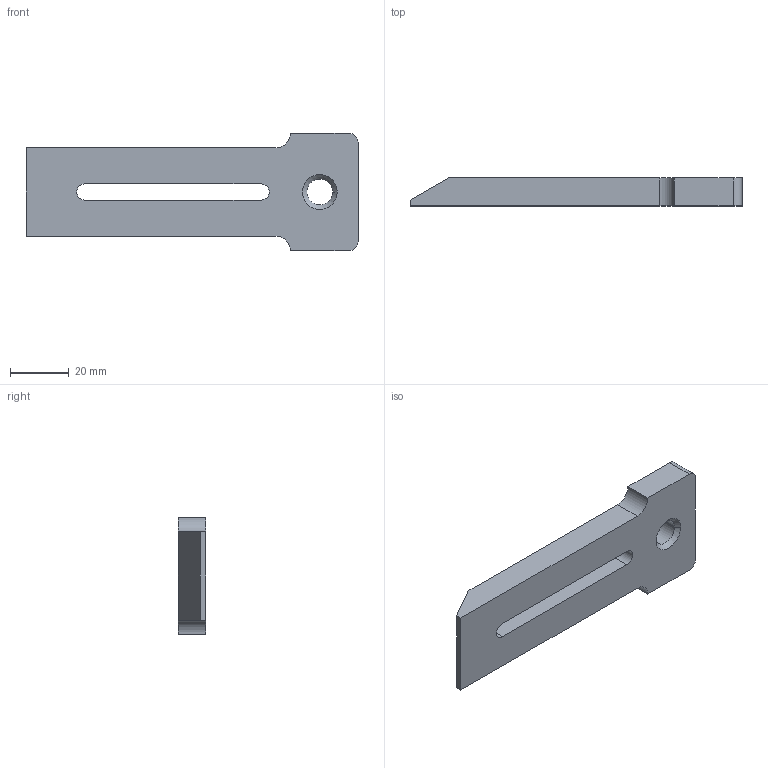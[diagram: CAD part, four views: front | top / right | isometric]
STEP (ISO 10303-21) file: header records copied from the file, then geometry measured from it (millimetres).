
FILE_DESCRIPTION((''),'2;1');
FILE_NAME('B25002','2015-12-09T',('barto_000'),(''),'CREO PARAMETRIC BY PTC INC, 2014500','CREO PARAMETRIC BY PTC INC, 2014500','');
FILE_SCHEMA(('CONFIG_CONTROL_DESIGN'));
Length unit declared in the file: millimetre
Products named in the file (1): B25002
Bounding box: 113 x 9.53 x 40 mm (x, y, z)
Volume: 29091.2 mm3; surface area: 10560 mm2
Topology: 1 solids, 1 shells, 21 faces, 55 edges, 36 vertices
Faces by surface type: plane 11, cylinder 8, cone 2
Entity records: 885 total; most frequent: DIRECTION 115, CARTESIAN_POINT 112, ORIENTED_EDGE 110, PRESENTATION_STYLE_ASSIGNMENT 56, STYLED_ITEM 56, CURVE_STYLE 55, EDGE_CURVE 55, AXIS2_PLACEMENT_3D 39
